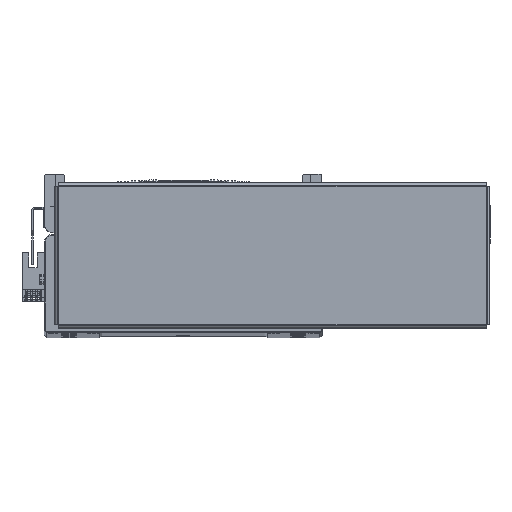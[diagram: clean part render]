
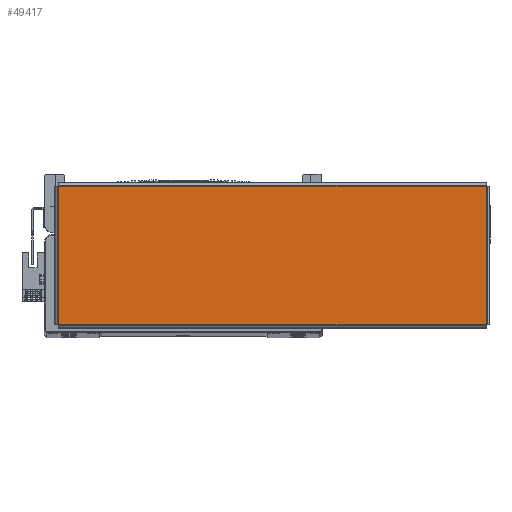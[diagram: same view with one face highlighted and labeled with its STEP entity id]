
A CAD part, top view. The second image highlights one B-rep face of the part: STEP entity #49417.
In plain terms, the highlighted planar face has unit normal (0, 0, 1) as drawn and (0, -1, 0) by its records, which use the part's own axes.
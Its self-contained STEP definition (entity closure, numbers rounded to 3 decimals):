
#8383 = VERTEX_POINT ( 'NONE', #34535 ) ;
#8403 = VERTEX_POINT ( 'NONE', #34520 ) ;
#8418 = VERTEX_POINT ( 'NONE', #34516 ) ;
#8432 = VERTEX_POINT ( 'NONE', #34537 ) ;
#10491 = EDGE_CURVE ( 'NONE', #8403, #8432, #67893, .T. ) ;
#10514 = EDGE_CURVE ( 'NONE', #8383, #8403, #67980, .T. ) ;
#10527 = EDGE_CURVE ( 'NONE', #8418, #8383, #67993, .T. ) ;
#10530 = EDGE_CURVE ( 'NONE', #8432, #8418, #67995, .T. ) ;
#19828 = AXIS2_PLACEMENT_3D ( 'NONE', #22981, #22916, #22999 ) ;
#22916 = DIRECTION ( 'NONE',  ( 0., 1., 0. ) ) ;
#22981 = CARTESIAN_POINT ( 'NONE',  ( 0., -1.5, 0. ) ) ;
#22985 = PLANE ( 'NONE',  #19828 ) ;
#22999 = DIRECTION ( 'NONE',  ( 0., 0., 1. ) ) ;
#34516 = CARTESIAN_POINT ( 'NONE',  ( 130.863, -1.5, 42.263 ) ) ;
#34520 = CARTESIAN_POINT ( 'NONE',  ( -130.863, -1.5, -42.263 ) ) ;
#34535 = CARTESIAN_POINT ( 'NONE',  ( -130.863, -1.5, 42.263 ) ) ;
#34537 = CARTESIAN_POINT ( 'NONE',  ( 130.863, -1.5, -42.263 ) ) ;
#45699 = DIRECTION ( 'NONE',  ( 1., 0., 0. ) ) ;
#45784 = CARTESIAN_POINT ( 'NONE',  ( -130.893, -1.5, -42.263 ) ) ;
#45845 = CARTESIAN_POINT ( 'NONE',  ( -130.863, -1.5, 42.293 ) ) ;
#45895 = DIRECTION ( 'NONE',  ( 0., 0., -1. ) ) ;
#45986 = CARTESIAN_POINT ( 'NONE',  ( 130.863, -1.5, -42.293 ) ) ;
#45994 = CARTESIAN_POINT ( 'NONE',  ( 130.893, -1.5, 42.263 ) ) ;
#46027 = DIRECTION ( 'NONE',  ( 0., 0., 1. ) ) ;
#46072 = DIRECTION ( 'NONE',  ( -1., 0., 0. ) ) ;
#47355 = FACE_OUTER_BOUND ( 'NONE', #73012, .T. ) ;
#49417 = ADVANCED_FACE ( 'NONE', ( #47355 ), #22985, .F. ) ;
#51633 = ORIENTED_EDGE ( 'NONE', *, *, #10527, .T. ) ;
#51667 = ORIENTED_EDGE ( 'NONE', *, *, #10491, .T. ) ;
#51679 = ORIENTED_EDGE ( 'NONE', *, *, #10530, .T. ) ;
#51730 = ORIENTED_EDGE ( 'NONE', *, *, #10514, .T. ) ;
#67893 = LINE ( 'NONE', #45784, #67903 ) ;
#67903 = VECTOR ( 'NONE', #45699, 1000. ) ;
#67952 = VECTOR ( 'NONE', #46027, 1000. ) ;
#67973 = VECTOR ( 'NONE', #45895, 1000. ) ;
#67980 = LINE ( 'NONE', #45845, #67973 ) ;
#67993 = LINE ( 'NONE', #45994, #67994 ) ;
#67994 = VECTOR ( 'NONE', #46072, 1000. ) ;
#67995 = LINE ( 'NONE', #45986, #67952 ) ;
#73012 = EDGE_LOOP ( 'NONE', ( #51679, #51633, #51730, #51667 ) ) ;
